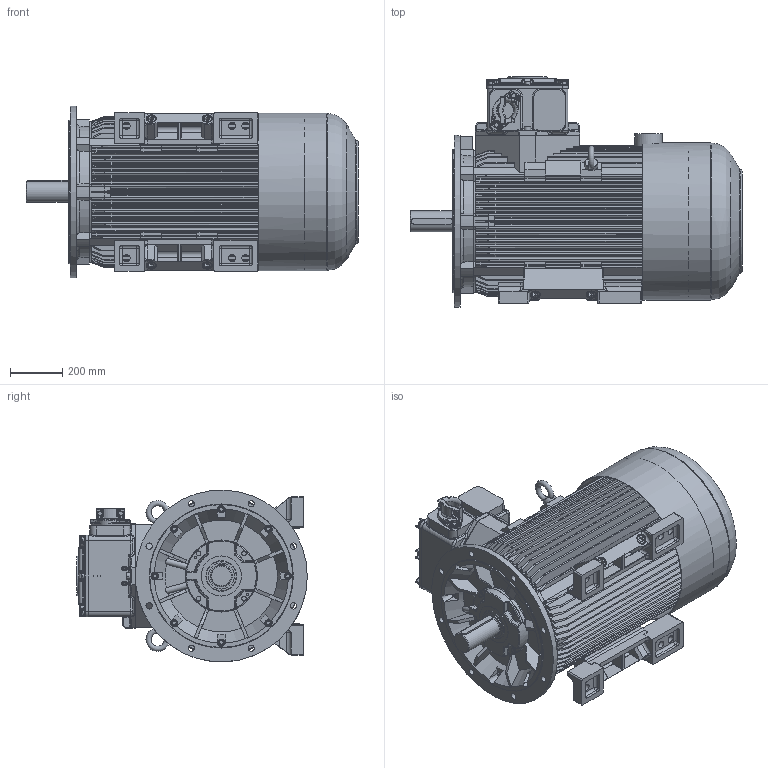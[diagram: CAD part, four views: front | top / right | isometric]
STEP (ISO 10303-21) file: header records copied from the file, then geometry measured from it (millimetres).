
FILE_DESCRIPTION(/* description */ ('Unknown'),/* implementation_level */ '2;1');
FILE_NAME(/* name */ 'EcSTLe(b)315S(4,6,8), M(6,8)A-N-IE(2,3)',/* time_stamp */ '2022-04-19T14:28:55+02:00',/* author */ ('Unknown'),/* organization */ ('Unknown'),/* preprocessor_version */ 'ST-DEVELOPER v16.7',/* originating_system */ 'DEX',/* authorisation */ $);
FILE_SCHEMA (('AUTOMOTIVE_DESIGN {1 0 10303 214 3 1 1}'));
Products named in the file (1): EcSTLe(b)315S(4,6,8), M(6,8)A-N-IE(2,3)
Bounding box: 1274.52 x 885 x 659.67 mm (x, y, z)
Volume: 279931916.6 mm3; surface area: 8125835.4 mm2
Topology: 1 solids, 61 shells, 3541 faces, 9004 edges, 5596 vertices
Faces by surface type: plane 1466, cylinder 1086, cone 353, torus 329, bspline 214, sphere 93
Full cylindrical faces by diameter (mm): 2.459 x2, 3 x4, 3.2 x2, 4.5 x1, 6 x1, 6.3 x1, 8.16 x4, 8.376 x8, 10 x10, 11 x7, 12 x2, 13.546 x4, 13.835 x6, 14.63 x8, 16 x17, 17.5 x12, 18 x8, 20.319 x4, 20.752 x4, 24 x28, 26 x12, 28 x6, 36 x4, 40 x4, 50 x2, 62 x1, 67 x1, 80 x1, 81.5 x1, 82 x1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
Entity records: 135939 total; most frequent: CARTESIAN_POINT 29047, DIRECTION 17153, ORIENTED_EDGE 16896, EDGE_CURVE 8448, AXIS2_PLACEMENT_3D 6562, VERTEX_POINT 5442, FACE_BOUND 4054, EDGE_LOOP 4032
